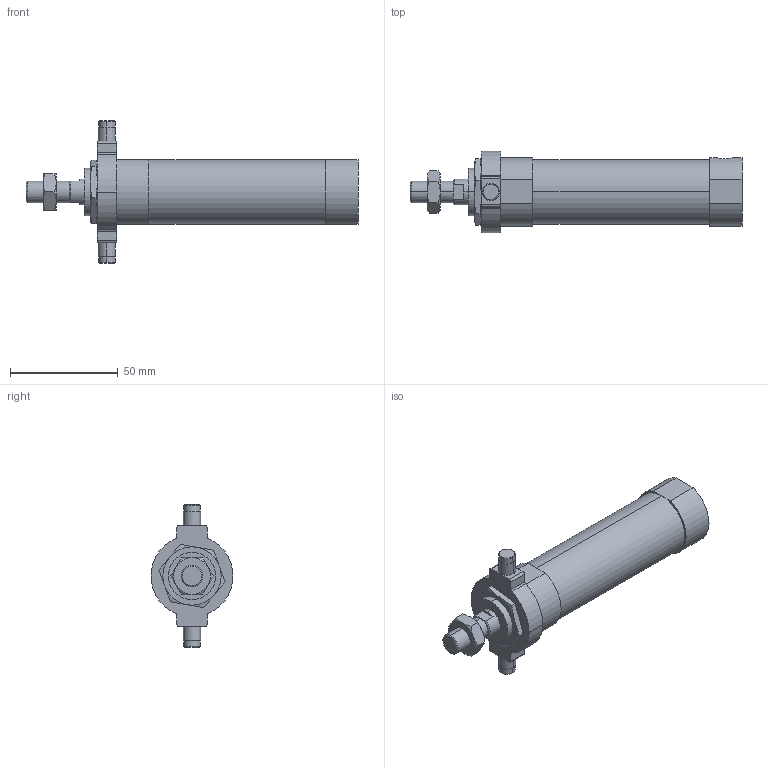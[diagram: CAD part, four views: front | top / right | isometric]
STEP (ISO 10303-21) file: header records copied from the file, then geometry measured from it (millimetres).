
FILE_DESCRIPTION (( 'STEP AP203' ), '1' );
FILE_NAME ('JGND1-25-25-T.STEP', '2016-08-04T02:16:54', ( '' ), ( '' ), 'SwSTEP 2.0', 'SolidWorks 2014', '' );
FILE_SCHEMA (( 'CONFIG_CONTROL_DESIGN' ));
Length unit declared in the file: millimetre
Products named in the file (5): J#2-25-T; JGND1-25-25-T; J#1-25-25(P)
Assembly tree (4 placements, depth 2):
  JGND1-25-25-T
    J#1-25-25(P)
    (unnamed)
    J#2-25-T
    (unnamed)
Bounding box: 154 x 38 x 66 mm (x, y, z)
Volume: 99038.9 mm3; surface area: 21029.5 mm2
Topology: 4 solids, 4 shells, 124 faces, 281 edges, 169 vertices
Faces by surface type: plane 45, cylinder 41, torus 24, cone 14
Entity records: 4216 total; most frequent: CARTESIAN_POINT 937, DIRECTION 603, ORIENTED_EDGE 558, EDGE_CURVE 279, AXIS2_PLACEMENT_3D 247, VERTEX_POINT 169, EDGE_LOOP 136, ADVANCED_FACE 124
